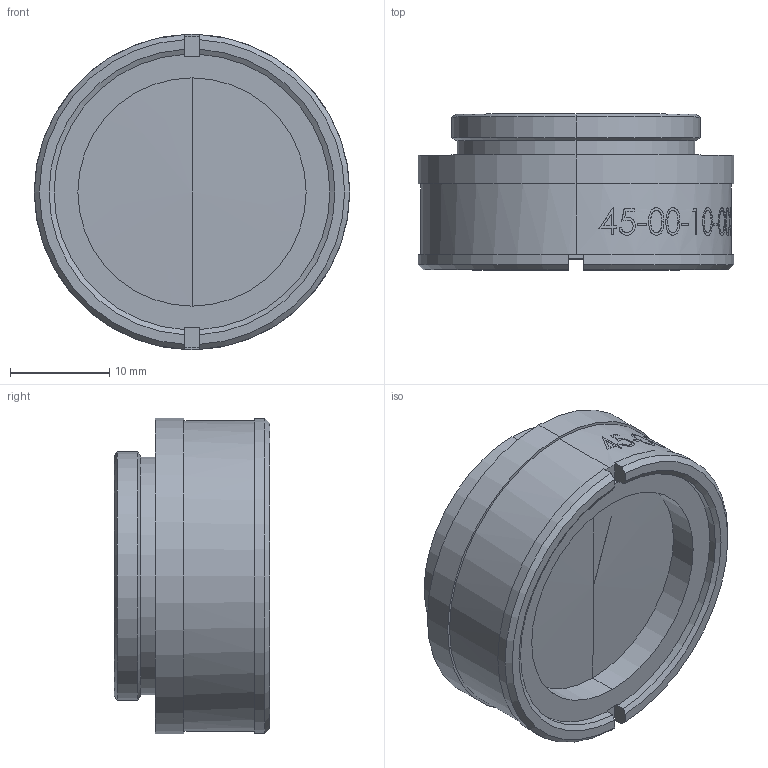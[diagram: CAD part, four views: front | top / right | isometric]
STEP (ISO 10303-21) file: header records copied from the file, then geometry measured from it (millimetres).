
FILE_DESCRIPTION (( 'STEP AP203' ), '1' );
FILE_NAME ('45-00-10-000 OUTLINE.STEP', '2020-08-17T20:48:41', ( '' ), ( '' ), 'SwSTEP 2.0', 'SolidWorks 2018', '' );
FILE_SCHEMA (( 'CONFIG_CONTROL_DESIGN' ));
Length unit declared in the file: millimetre
Products named in the file (1): 45-00-10-000 OUTLINE
Bounding box: 31.75 x 15.66 x 31.75 mm (x, y, z)
Volume: 7270.9 mm3; surface area: 3737.2 mm2
Topology: 1 solids, 1 shells, 277 faces, 699 edges, 460 vertices
Faces by surface type: bspline 128, plane 86, cylinder 51, cone 12
Entity records: 25989 total; most frequent: CARTESIAN_POINT 20328, ORIENTED_EDGE 1390, DIRECTION 714, EDGE_CURVE 695, VERTEX_POINT 460, B_SPLINE_CURVE_WITH_KNOTS 407, EDGE_LOOP 317, ADVANCED_FACE 277
